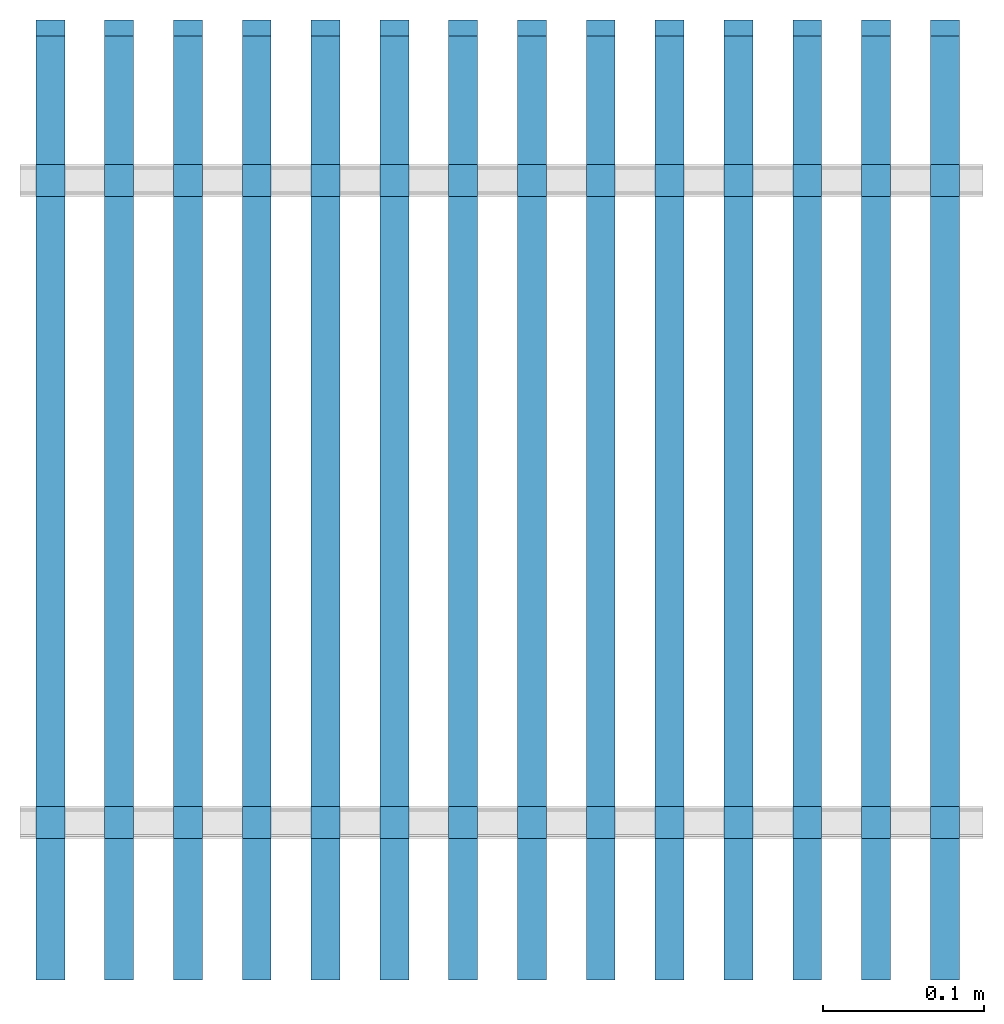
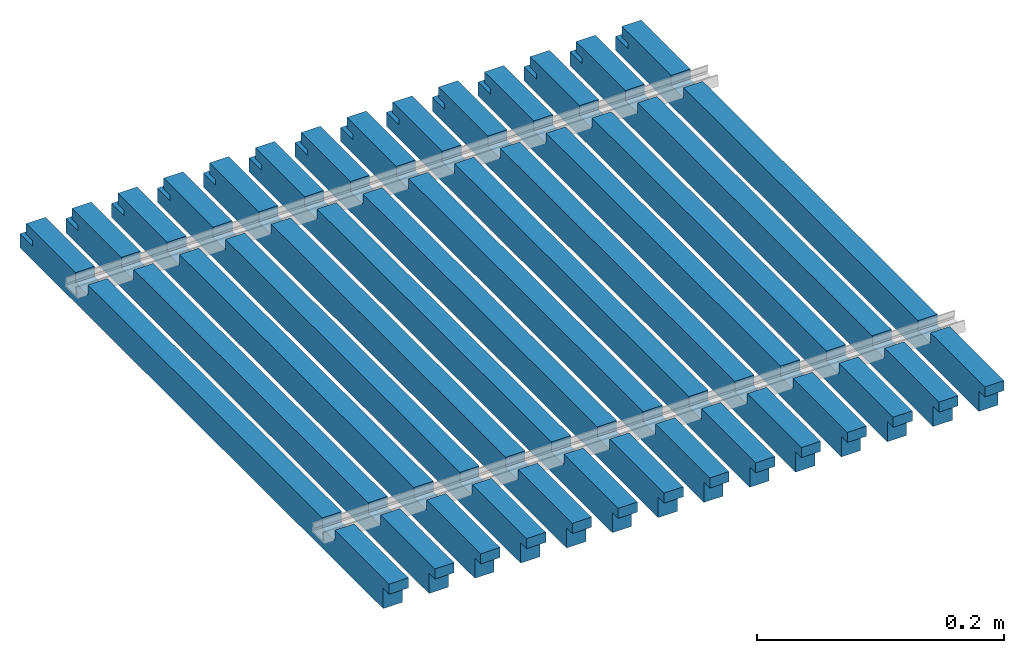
# One storey, part 2 of 2: 14 walls.
"""IFC2X3 building model written with IfcOpenShell, lengths in millimetres."""

from ifc_helpers import new_model, entity, si_unit, converted_unit, money_unit, direction, frame, origin_with_axes, place, context, subcontext, project, spatial, polyline, outline, extrude, boolean, faceted_brep, material, layer, layer_set, layer_usage, type_object, element, save


model = new_model("IFC2X3")

# Units and contexts
model_context = context("Model", 3, precision=1e-05, world=origin_with_axes(), true_north=direction((0.0, 1.0)))
body_context = subcontext(model_context, "Body", "Model", "MODEL_VIEW")
ifc_project = project(units=[si_unit("LENGTHUNIT", "METRE", prefix="MILLI"), si_unit("AREAUNIT", "SQUARE_METRE"), si_unit("VOLUMEUNIT", "CUBIC_METRE"), converted_unit("PLANEANGLEUNIT", "DEGREE", entity("IfcPlaneAngleMeasure", 0.0174532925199), si_unit("PLANEANGLEUNIT", "RADIAN"), dimensions=[0, 0, 0, 0, 0, 0, 0]), si_unit("SOLIDANGLEUNIT", "STERADIAN"), money_unit("AUD"), si_unit("TIMEUNIT", "SECOND"), si_unit("MASSUNIT", "GRAM"), si_unit("THERMODYNAMICTEMPERATUREUNIT", "DEGREE_CELSIUS"), si_unit("LUMINOUSINTENSITYUNIT", "LUMEN")], contexts=[model_context])

# Site, building, storey
site_placement = place(None, origin_with_axes())
site = spatial("IfcSite", under=ifc_project, at=site_placement, Name="Site", CompositionType="ELEMENT")
building_placement = place(site_placement, origin_with_axes())
building = spatial("IfcBuilding", under=site, at=building_placement, Name="Building", CompositionType="ELEMENT")
storey_placement = place(building_placement, origin_with_axes())
storey = spatial("IfcBuildingStorey", under=building, at=storey_placement, Name="GROUND", CompositionType="ELEMENT", Elevation=0.0)

# Walls
ifc_material = material(Name="Timber")
ifc_layer = layer(ifc_material, 18.0, ventilated="UNKNOWN")
ifc_layer_set = layer_set([ifc_layer], Name="Timber 18")
ifc_layer_usage_1 = layer_usage(ifc_layer_set, "AXIS2", "POSITIVE", 0.0)
wall_type = type_object("IfcWallType", Name="Timber 18", PredefinedType="NOTDEFINED")
wall_1_placement = place(storey_placement, frame((587.59, 2.0, 0.0), z_axis=(0.0, 0.0, 1.0), x_axis=(0.0, 1.0, 0.0)))
element("IfcWallStandardCase", 1, at=wall_1_placement, inside=storey, type_object=wall_type, material=ifc_layer_usage_1, Name="WALL-01", context=body_context, shape_type="CSG", body=[
    boolean("DIFFERENCE", boolean("DIFFERENCE", boolean("DIFFERENCE", boolean("DIFFERENCE", extrude(outline(polyline([(0.0, 0.0), (600.0, 0.0), (600.0, 18.0), (0.0, 18.0), (0.0, 0.0)])), origin_with_axes(), (0.0, 0.0, 1.0), 30.0), faceted_brep([(2.0, 0.0, 20.0), (2.0, 0.0, 30.0), (0.0, 0.0, 30.0), (0.0, 0.0, 0.0), (11.5, 0.0, 0.0), (11.5, 0.0, 20.0), (2.0, 18.0, 30.0), (2.0, 18.0, 20.0), (0.0, 18.0, 30.0), (0.0, 18.0, 0.0), (11.5, 18.0, 0.0), (11.5, 18.0, 20.0)], [[[0, 1, 2, 3, 4, 5]], [[6, 1, 0, 7]], [[1, 6, 8, 2]], [[8, 9, 3, 2]], [[10, 4, 3, 9]], [[5, 4, 10, 11]], [[0, 5, 11, 7]], [[11, 10, 9, 8, 6, 7]]])), faceted_brep([(90.0, 0.0, 20.0), (110.0, 0.0, 20.0), (110.0, 0.0, 30.0), (90.0, 0.0, 30.0), (90.0, 18.0, 20.0), (110.0, 18.0, 20.0), (110.0, 18.0, 30.0), (90.0, 18.0, 30.0)], [[[0, 1, 2, 3]], [[1, 0, 4, 5]], [[6, 2, 1, 5]], [[7, 3, 2, 6]], [[0, 3, 7, 4]], [[4, 7, 6, 5]]])), faceted_brep([(490.0, 0.0, 20.0), (510.0, 0.0, 20.0), (510.0, 0.0, 30.0), (490.0, 0.0, 30.0), (490.0, 18.0, 20.0), (510.0, 18.0, 20.0), (510.0, 18.0, 30.0), (490.0, 18.0, 30.0)], [[[0, 1, 2, 3]], [[1, 0, 4, 5]], [[6, 2, 1, 5]], [[7, 3, 2, 6]], [[0, 3, 7, 4]], [[4, 7, 6, 5]]])), faceted_brep([(580.0, 0.0, 19.5), (580.0, 0.0, 14.0), (600.0, 0.0, 14.0), (600.0, 0.0, 30.0), (590.0, 0.0, 30.0), (590.0, 0.0, 19.5), (580.0, 18.0, 19.5), (580.0, 18.0, 14.0), (600.0, 18.0, 14.0), (600.0, 18.0, 30.0), (590.0, 18.0, 30.0), (590.0, 18.0, 19.5)], [[[0, 1, 2, 3, 4, 5]], [[1, 0, 6, 7]], [[8, 2, 1, 7]], [[2, 8, 9, 3]], [[10, 4, 3, 9]], [[5, 4, 10, 11]], [[0, 5, 11, 6]], [[11, 10, 9, 8, 7, 6]]])),
])
ifc_layer_usage_2 = layer_usage(ifc_layer_set, "AXIS2", "POSITIVE", 0.0)
wall_2_placement = place(storey_placement, frame((544.73, 2.0, 0.0), z_axis=(0.0, 0.0, 1.0), x_axis=(0.0, 1.0, 0.0)))
element("IfcWallStandardCase", 2, at=wall_2_placement, inside=storey, type_object=wall_type, material=ifc_layer_usage_2, Name="WALL-01", context=body_context, shape_type="CSG", body=[
    boolean("DIFFERENCE", boolean("DIFFERENCE", boolean("DIFFERENCE", boolean("DIFFERENCE", extrude(outline(polyline([(0.0, 0.0), (600.0, 0.0), (600.0, 18.0), (0.0, 18.0), (0.0, 0.0)])), origin_with_axes(), (0.0, 0.0, 1.0), 30.0), faceted_brep([(2.0, 0.0, 20.0), (2.0, 0.0, 30.0), (0.0, 0.0, 30.0), (0.0, 0.0, 0.0), (11.5, 0.0, 0.0), (11.5, 0.0, 20.0), (2.0, 18.0, 30.0), (2.0, 18.0, 20.0), (0.0, 18.0, 30.0), (0.0, 18.0, 0.0), (11.5, 18.0, 0.0), (11.5, 18.0, 20.0)], [[[0, 1, 2, 3, 4, 5]], [[6, 1, 0, 7]], [[1, 6, 8, 2]], [[8, 9, 3, 2]], [[10, 4, 3, 9]], [[5, 4, 10, 11]], [[0, 5, 11, 7]], [[11, 10, 9, 8, 6, 7]]])), faceted_brep([(90.0, 0.0, 20.0), (110.0, 0.0, 20.0), (110.0, 0.0, 30.0), (90.0, 0.0, 30.0), (90.0, 18.0, 20.0), (110.0, 18.0, 20.0), (110.0, 18.0, 30.0), (90.0, 18.0, 30.0)], [[[0, 1, 2, 3]], [[1, 0, 4, 5]], [[6, 2, 1, 5]], [[7, 3, 2, 6]], [[0, 3, 7, 4]], [[4, 7, 6, 5]]])), faceted_brep([(490.0, 0.0, 20.0), (510.0, 0.0, 20.0), (510.0, 0.0, 30.0), (490.0, 0.0, 30.0), (490.0, 18.0, 20.0), (510.0, 18.0, 20.0), (510.0, 18.0, 30.0), (490.0, 18.0, 30.0)], [[[0, 1, 2, 3]], [[1, 0, 4, 5]], [[6, 2, 1, 5]], [[7, 3, 2, 6]], [[0, 3, 7, 4]], [[4, 7, 6, 5]]])), faceted_brep([(580.0, 0.0, 19.5), (580.0, 0.0, 14.0), (600.0, 0.0, 14.0), (600.0, 0.0, 30.0), (590.0, 0.0, 30.0), (590.0, 0.0, 19.5), (580.0, 18.0, 19.5), (580.0, 18.0, 14.0), (600.0, 18.0, 14.0), (600.0, 18.0, 30.0), (590.0, 18.0, 30.0), (590.0, 18.0, 19.5)], [[[0, 1, 2, 3, 4, 5]], [[1, 0, 6, 7]], [[8, 2, 1, 7]], [[2, 8, 9, 3]], [[10, 4, 3, 9]], [[5, 4, 10, 11]], [[0, 5, 11, 6]], [[11, 10, 9, 8, 7, 6]]])),
])
ifc_layer_usage_3 = layer_usage(ifc_layer_set, "AXIS2", "POSITIVE", 0.0)
wall_3_placement = place(storey_placement, frame((501.87, 2.0, 0.0), z_axis=(0.0, 0.0, 1.0), x_axis=(0.0, 1.0, 0.0)))
element("IfcWallStandardCase", 3, at=wall_3_placement, inside=storey, type_object=wall_type, material=ifc_layer_usage_3, Name="WALL-01", context=body_context, shape_type="CSG", body=[
    boolean("DIFFERENCE", boolean("DIFFERENCE", boolean("DIFFERENCE", boolean("DIFFERENCE", extrude(outline(polyline([(0.0, 0.0), (600.0, 0.0), (600.0, 18.0), (0.0, 18.0), (0.0, 0.0)])), origin_with_axes(), (0.0, 0.0, 1.0), 30.0), faceted_brep([(2.0, 0.0, 20.0), (2.0, 0.0, 30.0), (0.0, 0.0, 30.0), (0.0, 0.0, 0.0), (11.5, 0.0, 0.0), (11.5, 0.0, 20.0), (2.0, 18.0, 30.0), (2.0, 18.0, 20.0), (0.0, 18.0, 30.0), (0.0, 18.0, 0.0), (11.5, 18.0, 0.0), (11.5, 18.0, 20.0)], [[[0, 1, 2, 3, 4, 5]], [[6, 1, 0, 7]], [[1, 6, 8, 2]], [[8, 9, 3, 2]], [[10, 4, 3, 9]], [[5, 4, 10, 11]], [[0, 5, 11, 7]], [[11, 10, 9, 8, 6, 7]]])), faceted_brep([(90.0, 0.0, 20.0), (110.0, 0.0, 20.0), (110.0, 0.0, 30.0), (90.0, 0.0, 30.0), (90.0, 18.0, 20.0), (110.0, 18.0, 20.0), (110.0, 18.0, 30.0), (90.0, 18.0, 30.0)], [[[0, 1, 2, 3]], [[1, 0, 4, 5]], [[6, 2, 1, 5]], [[7, 3, 2, 6]], [[0, 3, 7, 4]], [[4, 7, 6, 5]]])), faceted_brep([(490.0, 0.0, 20.0), (510.0, 0.0, 20.0), (510.0, 0.0, 30.0), (490.0, 0.0, 30.0), (490.0, 18.0, 20.0), (510.0, 18.0, 20.0), (510.0, 18.0, 30.0), (490.0, 18.0, 30.0)], [[[0, 1, 2, 3]], [[1, 0, 4, 5]], [[6, 2, 1, 5]], [[7, 3, 2, 6]], [[0, 3, 7, 4]], [[4, 7, 6, 5]]])), faceted_brep([(580.0, 0.0, 19.5), (580.0, 0.0, 14.0), (600.0, 0.0, 14.0), (600.0, 0.0, 30.0), (590.0, 0.0, 30.0), (590.0, 0.0, 19.5), (580.0, 18.0, 19.5), (580.0, 18.0, 14.0), (600.0, 18.0, 14.0), (600.0, 18.0, 30.0), (590.0, 18.0, 30.0), (590.0, 18.0, 19.5)], [[[0, 1, 2, 3, 4, 5]], [[1, 0, 6, 7]], [[8, 2, 1, 7]], [[2, 8, 9, 3]], [[10, 4, 3, 9]], [[5, 4, 10, 11]], [[0, 5, 11, 6]], [[11, 10, 9, 8, 7, 6]]])),
])
ifc_layer_usage_4 = layer_usage(ifc_layer_set, "AXIS2", "POSITIVE", 0.0)
wall_4_placement = place(storey_placement, frame((459.01, 2.0, 0.0), z_axis=(0.0, 0.0, 1.0), x_axis=(0.0, 1.0, 0.0)))
element("IfcWallStandardCase", 4, at=wall_4_placement, inside=storey, type_object=wall_type, material=ifc_layer_usage_4, Name="WALL-01", context=body_context, shape_type="CSG", body=[
    boolean("DIFFERENCE", boolean("DIFFERENCE", boolean("DIFFERENCE", boolean("DIFFERENCE", extrude(outline(polyline([(0.0, 0.0), (600.0, 0.0), (600.0, 18.0), (0.0, 18.0), (0.0, 0.0)])), origin_with_axes(), (0.0, 0.0, 1.0), 30.0), faceted_brep([(2.0, 0.0, 20.0), (2.0, 0.0, 30.0), (0.0, 0.0, 30.0), (0.0, 0.0, 0.0), (11.5, 0.0, 0.0), (11.5, 0.0, 20.0), (2.0, 18.0, 30.0), (2.0, 18.0, 20.0), (0.0, 18.0, 30.0), (0.0, 18.0, 0.0), (11.5, 18.0, 0.0), (11.5, 18.0, 20.0)], [[[0, 1, 2, 3, 4, 5]], [[6, 1, 0, 7]], [[1, 6, 8, 2]], [[8, 9, 3, 2]], [[10, 4, 3, 9]], [[5, 4, 10, 11]], [[0, 5, 11, 7]], [[11, 10, 9, 8, 6, 7]]])), faceted_brep([(90.0, 0.0, 20.0), (110.0, 0.0, 20.0), (110.0, 0.0, 30.0), (90.0, 0.0, 30.0), (90.0, 18.0, 20.0), (110.0, 18.0, 20.0), (110.0, 18.0, 30.0), (90.0, 18.0, 30.0)], [[[0, 1, 2, 3]], [[1, 0, 4, 5]], [[6, 2, 1, 5]], [[7, 3, 2, 6]], [[0, 3, 7, 4]], [[4, 7, 6, 5]]])), faceted_brep([(490.0, 0.0, 20.0), (510.0, 0.0, 20.0), (510.0, 0.0, 30.0), (490.0, 0.0, 30.0), (490.0, 18.0, 20.0), (510.0, 18.0, 20.0), (510.0, 18.0, 30.0), (490.0, 18.0, 30.0)], [[[0, 1, 2, 3]], [[1, 0, 4, 5]], [[6, 2, 1, 5]], [[7, 3, 2, 6]], [[0, 3, 7, 4]], [[4, 7, 6, 5]]])), faceted_brep([(580.0, 0.0, 19.5), (580.0, 0.0, 14.0), (600.0, 0.0, 14.0), (600.0, 0.0, 30.0), (590.0, 0.0, 30.0), (590.0, 0.0, 19.5), (580.0, 18.0, 19.5), (580.0, 18.0, 14.0), (600.0, 18.0, 14.0), (600.0, 18.0, 30.0), (590.0, 18.0, 30.0), (590.0, 18.0, 19.5)], [[[0, 1, 2, 3, 4, 5]], [[1, 0, 6, 7]], [[8, 2, 1, 7]], [[2, 8, 9, 3]], [[10, 4, 3, 9]], [[5, 4, 10, 11]], [[0, 5, 11, 6]], [[11, 10, 9, 8, 7, 6]]])),
])
ifc_layer_usage_5 = layer_usage(ifc_layer_set, "AXIS2", "POSITIVE", 0.0)
wall_5_placement = place(storey_placement, frame((416.15, 2.0, 0.0), z_axis=(0.0, 0.0, 1.0), x_axis=(0.0, 1.0, 0.0)))
element("IfcWallStandardCase", 5, at=wall_5_placement, inside=storey, type_object=wall_type, material=ifc_layer_usage_5, Name="WALL-01", context=body_context, shape_type="CSG", body=[
    boolean("DIFFERENCE", boolean("DIFFERENCE", boolean("DIFFERENCE", boolean("DIFFERENCE", extrude(outline(polyline([(0.0, 0.0), (600.0, 0.0), (600.0, 18.0), (0.0, 18.0), (0.0, 0.0)])), origin_with_axes(), (0.0, 0.0, 1.0), 30.0), faceted_brep([(2.0, 0.0, 20.0), (2.0, 0.0, 30.0), (0.0, 0.0, 30.0), (0.0, 0.0, 0.0), (11.5, 0.0, 0.0), (11.5, 0.0, 20.0), (2.0, 18.0, 30.0), (2.0, 18.0, 20.0), (0.0, 18.0, 30.0), (0.0, 18.0, 0.0), (11.5, 18.0, 0.0), (11.5, 18.0, 20.0)], [[[0, 1, 2, 3, 4, 5]], [[6, 1, 0, 7]], [[1, 6, 8, 2]], [[8, 9, 3, 2]], [[10, 4, 3, 9]], [[5, 4, 10, 11]], [[0, 5, 11, 7]], [[11, 10, 9, 8, 6, 7]]])), faceted_brep([(90.0, 0.0, 20.0), (110.0, 0.0, 20.0), (110.0, 0.0, 30.0), (90.0, 0.0, 30.0), (90.0, 18.0, 20.0), (110.0, 18.0, 20.0), (110.0, 18.0, 30.0), (90.0, 18.0, 30.0)], [[[0, 1, 2, 3]], [[1, 0, 4, 5]], [[6, 2, 1, 5]], [[7, 3, 2, 6]], [[0, 3, 7, 4]], [[4, 7, 6, 5]]])), faceted_brep([(490.0, 0.0, 20.0), (510.0, 0.0, 20.0), (510.0, 0.0, 30.0), (490.0, 0.0, 30.0), (490.0, 18.0, 20.0), (510.0, 18.0, 20.0), (510.0, 18.0, 30.0), (490.0, 18.0, 30.0)], [[[0, 1, 2, 3]], [[1, 0, 4, 5]], [[6, 2, 1, 5]], [[7, 3, 2, 6]], [[0, 3, 7, 4]], [[4, 7, 6, 5]]])), faceted_brep([(580.0, 0.0, 19.5), (580.0, 0.0, 14.0), (600.0, 0.0, 14.0), (600.0, 0.0, 30.0), (590.0, 0.0, 30.0), (590.0, 0.0, 19.5), (580.0, 18.0, 19.5), (580.0, 18.0, 14.0), (600.0, 18.0, 14.0), (600.0, 18.0, 30.0), (590.0, 18.0, 30.0), (590.0, 18.0, 19.5)], [[[0, 1, 2, 3, 4, 5]], [[1, 0, 6, 7]], [[8, 2, 1, 7]], [[2, 8, 9, 3]], [[10, 4, 3, 9]], [[5, 4, 10, 11]], [[0, 5, 11, 6]], [[11, 10, 9, 8, 7, 6]]])),
])
ifc_layer_usage_6 = layer_usage(ifc_layer_set, "AXIS2", "POSITIVE", 0.0)
wall_6_placement = place(storey_placement, frame((373.29, 2.0, 0.0), z_axis=(0.0, 0.0, 1.0), x_axis=(0.0, 1.0, 0.0)))
element("IfcWallStandardCase", 6, at=wall_6_placement, inside=storey, type_object=wall_type, material=ifc_layer_usage_6, Name="WALL-01", context=body_context, shape_type="CSG", body=[
    boolean("DIFFERENCE", boolean("DIFFERENCE", boolean("DIFFERENCE", boolean("DIFFERENCE", extrude(outline(polyline([(0.0, 0.0), (600.0, 0.0), (600.0, 18.0), (0.0, 18.0), (0.0, 0.0)])), origin_with_axes(), (0.0, 0.0, 1.0), 30.0), faceted_brep([(2.0, 0.0, 20.0), (2.0, 0.0, 30.0), (0.0, 0.0, 30.0), (0.0, 0.0, 0.0), (11.5, 0.0, 0.0), (11.5, 0.0, 20.0), (2.0, 18.0, 30.0), (2.0, 18.0, 20.0), (0.0, 18.0, 30.0), (0.0, 18.0, 0.0), (11.5, 18.0, 0.0), (11.5, 18.0, 20.0)], [[[0, 1, 2, 3, 4, 5]], [[6, 1, 0, 7]], [[1, 6, 8, 2]], [[8, 9, 3, 2]], [[10, 4, 3, 9]], [[5, 4, 10, 11]], [[0, 5, 11, 7]], [[11, 10, 9, 8, 6, 7]]])), faceted_brep([(90.0, 0.0, 20.0), (110.0, 0.0, 20.0), (110.0, 0.0, 30.0), (90.0, 0.0, 30.0), (90.0, 18.0, 20.0), (110.0, 18.0, 20.0), (110.0, 18.0, 30.0), (90.0, 18.0, 30.0)], [[[0, 1, 2, 3]], [[1, 0, 4, 5]], [[6, 2, 1, 5]], [[7, 3, 2, 6]], [[0, 3, 7, 4]], [[4, 7, 6, 5]]])), faceted_brep([(490.0, 0.0, 20.0), (510.0, 0.0, 20.0), (510.0, 0.0, 30.0), (490.0, 0.0, 30.0), (490.0, 18.0, 20.0), (510.0, 18.0, 20.0), (510.0, 18.0, 30.0), (490.0, 18.0, 30.0)], [[[0, 1, 2, 3]], [[1, 0, 4, 5]], [[6, 2, 1, 5]], [[7, 3, 2, 6]], [[0, 3, 7, 4]], [[4, 7, 6, 5]]])), faceted_brep([(580.0, 0.0, 19.5), (580.0, 0.0, 14.0), (600.0, 0.0, 14.0), (600.0, 0.0, 30.0), (590.0, 0.0, 30.0), (590.0, 0.0, 19.5), (580.0, 18.0, 19.5), (580.0, 18.0, 14.0), (600.0, 18.0, 14.0), (600.0, 18.0, 30.0), (590.0, 18.0, 30.0), (590.0, 18.0, 19.5)], [[[0, 1, 2, 3, 4, 5]], [[1, 0, 6, 7]], [[8, 2, 1, 7]], [[2, 8, 9, 3]], [[10, 4, 3, 9]], [[5, 4, 10, 11]], [[0, 5, 11, 6]], [[11, 10, 9, 8, 7, 6]]])),
])
ifc_layer_usage_7 = layer_usage(ifc_layer_set, "AXIS2", "POSITIVE", 0.0)
wall_7_placement = place(storey_placement, frame((330.43, 2.0, 0.0), z_axis=(0.0, 0.0, 1.0), x_axis=(0.0, 1.0, 0.0)))
element("IfcWallStandardCase", 7, at=wall_7_placement, inside=storey, type_object=wall_type, material=ifc_layer_usage_7, Name="WALL-01", context=body_context, shape_type="CSG", body=[
    boolean("DIFFERENCE", boolean("DIFFERENCE", boolean("DIFFERENCE", boolean("DIFFERENCE", extrude(outline(polyline([(0.0, 0.0), (600.0, 0.0), (600.0, 18.0), (0.0, 18.0), (0.0, 0.0)])), origin_with_axes(), (0.0, 0.0, 1.0), 30.0), faceted_brep([(2.0, 0.0, 20.0), (2.0, 0.0, 30.0), (0.0, 0.0, 30.0), (0.0, 0.0, 0.0), (11.5, 0.0, 0.0), (11.5, 0.0, 20.0), (2.0, 18.0, 30.0), (2.0, 18.0, 20.0), (0.0, 18.0, 30.0), (0.0, 18.0, 0.0), (11.5, 18.0, 0.0), (11.5, 18.0, 20.0)], [[[0, 1, 2, 3, 4, 5]], [[6, 1, 0, 7]], [[1, 6, 8, 2]], [[8, 9, 3, 2]], [[10, 4, 3, 9]], [[5, 4, 10, 11]], [[0, 5, 11, 7]], [[11, 10, 9, 8, 6, 7]]])), faceted_brep([(90.0, 0.0, 20.0), (110.0, 0.0, 20.0), (110.0, 0.0, 30.0), (90.0, 0.0, 30.0), (90.0, 18.0, 20.0), (110.0, 18.0, 20.0), (110.0, 18.0, 30.0), (90.0, 18.0, 30.0)], [[[0, 1, 2, 3]], [[1, 0, 4, 5]], [[6, 2, 1, 5]], [[7, 3, 2, 6]], [[0, 3, 7, 4]], [[4, 7, 6, 5]]])), faceted_brep([(490.0, 0.0, 20.0), (510.0, 0.0, 20.0), (510.0, 0.0, 30.0), (490.0, 0.0, 30.0), (490.0, 18.0, 20.0), (510.0, 18.0, 20.0), (510.0, 18.0, 30.0), (490.0, 18.0, 30.0)], [[[0, 1, 2, 3]], [[1, 0, 4, 5]], [[6, 2, 1, 5]], [[7, 3, 2, 6]], [[0, 3, 7, 4]], [[4, 7, 6, 5]]])), faceted_brep([(580.0, 0.0, 19.5), (580.0, 0.0, 14.0), (600.0, 0.0, 14.0), (600.0, 0.0, 30.0), (590.0, 0.0, 30.0), (590.0, 0.0, 19.5), (580.0, 18.0, 19.5), (580.0, 18.0, 14.0), (600.0, 18.0, 14.0), (600.0, 18.0, 30.0), (590.0, 18.0, 30.0), (590.0, 18.0, 19.5)], [[[0, 1, 2, 3, 4, 5]], [[1, 0, 6, 7]], [[8, 2, 1, 7]], [[2, 8, 9, 3]], [[10, 4, 3, 9]], [[5, 4, 10, 11]], [[0, 5, 11, 6]], [[11, 10, 9, 8, 7, 6]]])),
])
ifc_layer_usage_8 = layer_usage(ifc_layer_set, "AXIS2", "POSITIVE", 0.0)
wall_8_placement = place(storey_placement, frame((287.57, 2.0, 0.0), z_axis=(0.0, 0.0, 1.0), x_axis=(0.0, 1.0, 0.0)))
element("IfcWallStandardCase", 8, at=wall_8_placement, inside=storey, type_object=wall_type, material=ifc_layer_usage_8, Name="WALL-01", context=body_context, shape_type="CSG", body=[
    boolean("DIFFERENCE", boolean("DIFFERENCE", boolean("DIFFERENCE", boolean("DIFFERENCE", extrude(outline(polyline([(0.0, 0.0), (600.0, 0.0), (600.0, 18.0), (0.0, 18.0), (0.0, 0.0)])), origin_with_axes(), (0.0, 0.0, 1.0), 30.0), faceted_brep([(2.0, 0.0, 20.0), (2.0, 0.0, 30.0), (0.0, 0.0, 30.0), (0.0, 0.0, 0.0), (11.5, 0.0, 0.0), (11.5, 0.0, 20.0), (2.0, 18.0, 30.0), (2.0, 18.0, 20.0), (0.0, 18.0, 30.0), (0.0, 18.0, 0.0), (11.5, 18.0, 0.0), (11.5, 18.0, 20.0)], [[[0, 1, 2, 3, 4, 5]], [[6, 1, 0, 7]], [[1, 6, 8, 2]], [[8, 9, 3, 2]], [[10, 4, 3, 9]], [[5, 4, 10, 11]], [[0, 5, 11, 7]], [[11, 10, 9, 8, 6, 7]]])), faceted_brep([(90.0, 0.0, 20.0), (110.0, 0.0, 20.0), (110.0, 0.0, 30.0), (90.0, 0.0, 30.0), (90.0, 18.0, 20.0), (110.0, 18.0, 20.0), (110.0, 18.0, 30.0), (90.0, 18.0, 30.0)], [[[0, 1, 2, 3]], [[1, 0, 4, 5]], [[6, 2, 1, 5]], [[7, 3, 2, 6]], [[0, 3, 7, 4]], [[4, 7, 6, 5]]])), faceted_brep([(490.0, 0.0, 20.0), (510.0, 0.0, 20.0), (510.0, 0.0, 30.0), (490.0, 0.0, 30.0), (490.0, 18.0, 20.0), (510.0, 18.0, 20.0), (510.0, 18.0, 30.0), (490.0, 18.0, 30.0)], [[[0, 1, 2, 3]], [[1, 0, 4, 5]], [[6, 2, 1, 5]], [[7, 3, 2, 6]], [[0, 3, 7, 4]], [[4, 7, 6, 5]]])), faceted_brep([(580.0, 0.0, 19.5), (580.0, 0.0, 14.0), (600.0, 0.0, 14.0), (600.0, 0.0, 30.0), (590.0, 0.0, 30.0), (590.0, 0.0, 19.5), (580.0, 18.0, 19.5), (580.0, 18.0, 14.0), (600.0, 18.0, 14.0), (600.0, 18.0, 30.0), (590.0, 18.0, 30.0), (590.0, 18.0, 19.5)], [[[0, 1, 2, 3, 4, 5]], [[1, 0, 6, 7]], [[8, 2, 1, 7]], [[2, 8, 9, 3]], [[10, 4, 3, 9]], [[5, 4, 10, 11]], [[0, 5, 11, 6]], [[11, 10, 9, 8, 7, 6]]])),
])
ifc_layer_usage_9 = layer_usage(ifc_layer_set, "AXIS2", "POSITIVE", 0.0)
wall_9_placement = place(storey_placement, frame((244.71, 2.0, 0.0), z_axis=(0.0, 0.0, 1.0), x_axis=(0.0, 1.0, 0.0)))
element("IfcWallStandardCase", 9, at=wall_9_placement, inside=storey, type_object=wall_type, material=ifc_layer_usage_9, Name="WALL-01", context=body_context, shape_type="CSG", body=[
    boolean("DIFFERENCE", boolean("DIFFERENCE", boolean("DIFFERENCE", boolean("DIFFERENCE", extrude(outline(polyline([(0.0, 0.0), (600.0, 0.0), (600.0, 18.0), (0.0, 18.0), (0.0, 0.0)])), origin_with_axes(), (0.0, 0.0, 1.0), 30.0), faceted_brep([(2.0, 0.0, 20.0), (2.0, 0.0, 30.0), (0.0, 0.0, 30.0), (0.0, 0.0, 0.0), (11.5, 0.0, 0.0), (11.5, 0.0, 20.0), (2.0, 18.0, 30.0), (2.0, 18.0, 20.0), (0.0, 18.0, 30.0), (0.0, 18.0, 0.0), (11.5, 18.0, 0.0), (11.5, 18.0, 20.0)], [[[0, 1, 2, 3, 4, 5]], [[6, 1, 0, 7]], [[1, 6, 8, 2]], [[8, 9, 3, 2]], [[10, 4, 3, 9]], [[5, 4, 10, 11]], [[0, 5, 11, 7]], [[11, 10, 9, 8, 6, 7]]])), faceted_brep([(90.0, 0.0, 20.0), (110.0, 0.0, 20.0), (110.0, 0.0, 30.0), (90.0, 0.0, 30.0), (90.0, 18.0, 20.0), (110.0, 18.0, 20.0), (110.0, 18.0, 30.0), (90.0, 18.0, 30.0)], [[[0, 1, 2, 3]], [[1, 0, 4, 5]], [[6, 2, 1, 5]], [[7, 3, 2, 6]], [[0, 3, 7, 4]], [[4, 7, 6, 5]]])), faceted_brep([(490.0, 0.0, 20.0), (510.0, 0.0, 20.0), (510.0, 0.0, 30.0), (490.0, 0.0, 30.0), (490.0, 18.0, 20.0), (510.0, 18.0, 20.0), (510.0, 18.0, 30.0), (490.0, 18.0, 30.0)], [[[0, 1, 2, 3]], [[1, 0, 4, 5]], [[6, 2, 1, 5]], [[7, 3, 2, 6]], [[0, 3, 7, 4]], [[4, 7, 6, 5]]])), faceted_brep([(580.0, 0.0, 19.5), (580.0, 0.0, 14.0), (600.0, 0.0, 14.0), (600.0, 0.0, 30.0), (590.0, 0.0, 30.0), (590.0, 0.0, 19.5), (580.0, 18.0, 19.5), (580.0, 18.0, 14.0), (600.0, 18.0, 14.0), (600.0, 18.0, 30.0), (590.0, 18.0, 30.0), (590.0, 18.0, 19.5)], [[[0, 1, 2, 3, 4, 5]], [[1, 0, 6, 7]], [[8, 2, 1, 7]], [[2, 8, 9, 3]], [[10, 4, 3, 9]], [[5, 4, 10, 11]], [[0, 5, 11, 6]], [[11, 10, 9, 8, 7, 6]]])),
])
ifc_layer_usage_10 = layer_usage(ifc_layer_set, "AXIS2", "POSITIVE", 0.0)
wall_10_placement = place(storey_placement, frame((201.85, 2.0, 0.0), z_axis=(0.0, 0.0, 1.0), x_axis=(0.0, 1.0, 0.0)))
element("IfcWallStandardCase", 10, at=wall_10_placement, inside=storey, type_object=wall_type, material=ifc_layer_usage_10, Name="WALL-01", context=body_context, shape_type="CSG", body=[
    boolean("DIFFERENCE", boolean("DIFFERENCE", boolean("DIFFERENCE", boolean("DIFFERENCE", extrude(outline(polyline([(0.0, 0.0), (600.0, 0.0), (600.0, 18.0), (0.0, 18.0), (0.0, 0.0)])), origin_with_axes(), (0.0, 0.0, 1.0), 30.0), faceted_brep([(2.0, 0.0, 20.0), (2.0, 0.0, 30.0), (0.0, 0.0, 30.0), (0.0, 0.0, 0.0), (11.5, 0.0, 0.0), (11.5, 0.0, 20.0), (2.0, 18.0, 30.0), (2.0, 18.0, 20.0), (0.0, 18.0, 30.0), (0.0, 18.0, 0.0), (11.5, 18.0, 0.0), (11.5, 18.0, 20.0)], [[[0, 1, 2, 3, 4, 5]], [[6, 1, 0, 7]], [[1, 6, 8, 2]], [[8, 9, 3, 2]], [[10, 4, 3, 9]], [[5, 4, 10, 11]], [[0, 5, 11, 7]], [[11, 10, 9, 8, 6, 7]]])), faceted_brep([(90.0, 0.0, 20.0), (110.0, 0.0, 20.0), (110.0, 0.0, 30.0), (90.0, 0.0, 30.0), (90.0, 18.0, 20.0), (110.0, 18.0, 20.0), (110.0, 18.0, 30.0), (90.0, 18.0, 30.0)], [[[0, 1, 2, 3]], [[1, 0, 4, 5]], [[6, 2, 1, 5]], [[7, 3, 2, 6]], [[0, 3, 7, 4]], [[4, 7, 6, 5]]])), faceted_brep([(490.0, 0.0, 20.0), (510.0, 0.0, 20.0), (510.0, 0.0, 30.0), (490.0, 0.0, 30.0), (490.0, 18.0, 20.0), (510.0, 18.0, 20.0), (510.0, 18.0, 30.0), (490.0, 18.0, 30.0)], [[[0, 1, 2, 3]], [[1, 0, 4, 5]], [[6, 2, 1, 5]], [[7, 3, 2, 6]], [[0, 3, 7, 4]], [[4, 7, 6, 5]]])), faceted_brep([(580.0, 0.0, 19.5), (580.0, 0.0, 14.0), (600.0, 0.0, 14.0), (600.0, 0.0, 30.0), (590.0, 0.0, 30.0), (590.0, 0.0, 19.5), (580.0, 18.0, 19.5), (580.0, 18.0, 14.0), (600.0, 18.0, 14.0), (600.0, 18.0, 30.0), (590.0, 18.0, 30.0), (590.0, 18.0, 19.5)], [[[0, 1, 2, 3, 4, 5]], [[1, 0, 6, 7]], [[8, 2, 1, 7]], [[2, 8, 9, 3]], [[10, 4, 3, 9]], [[5, 4, 10, 11]], [[0, 5, 11, 6]], [[11, 10, 9, 8, 7, 6]]])),
])
ifc_layer_usage_11 = layer_usage(ifc_layer_set, "AXIS2", "POSITIVE", 0.0)
wall_11_placement = place(storey_placement, frame((158.99, 2.0, 0.0), z_axis=(0.0, 0.0, 1.0), x_axis=(0.0, 1.0, 0.0)))
element("IfcWallStandardCase", 11, at=wall_11_placement, inside=storey, type_object=wall_type, material=ifc_layer_usage_11, Name="WALL-01", context=body_context, shape_type="CSG", body=[
    boolean("DIFFERENCE", boolean("DIFFERENCE", boolean("DIFFERENCE", boolean("DIFFERENCE", extrude(outline(polyline([(0.0, 0.0), (600.0, 0.0), (600.0, 18.0), (0.0, 18.0), (0.0, 0.0)])), origin_with_axes(), (0.0, 0.0, 1.0), 30.0), faceted_brep([(2.0, 0.0, 20.0), (2.0, 0.0, 30.0), (0.0, 0.0, 30.0), (0.0, 0.0, 0.0), (11.5, 0.0, 0.0), (11.5, 0.0, 20.0), (2.0, 18.0, 30.0), (2.0, 18.0, 20.0), (0.0, 18.0, 30.0), (0.0, 18.0, 0.0), (11.5, 18.0, 0.0), (11.5, 18.0, 20.0)], [[[0, 1, 2, 3, 4, 5]], [[6, 1, 0, 7]], [[1, 6, 8, 2]], [[8, 9, 3, 2]], [[10, 4, 3, 9]], [[5, 4, 10, 11]], [[0, 5, 11, 7]], [[11, 10, 9, 8, 6, 7]]])), faceted_brep([(90.0, 0.0, 20.0), (110.0, 0.0, 20.0), (110.0, 0.0, 30.0), (90.0, 0.0, 30.0), (90.0, 18.0, 20.0), (110.0, 18.0, 20.0), (110.0, 18.0, 30.0), (90.0, 18.0, 30.0)], [[[0, 1, 2, 3]], [[1, 0, 4, 5]], [[6, 2, 1, 5]], [[7, 3, 2, 6]], [[0, 3, 7, 4]], [[4, 7, 6, 5]]])), faceted_brep([(490.0, 0.0, 20.0), (510.0, 0.0, 20.0), (510.0, 0.0, 30.0), (490.0, 0.0, 30.0), (490.0, 18.0, 20.0), (510.0, 18.0, 20.0), (510.0, 18.0, 30.0), (490.0, 18.0, 30.0)], [[[0, 1, 2, 3]], [[1, 0, 4, 5]], [[6, 2, 1, 5]], [[7, 3, 2, 6]], [[0, 3, 7, 4]], [[4, 7, 6, 5]]])), faceted_brep([(580.0, 0.0, 19.5), (580.0, 0.0, 14.0), (600.0, 0.0, 14.0), (600.0, 0.0, 30.0), (590.0, 0.0, 30.0), (590.0, 0.0, 19.5), (580.0, 18.0, 19.5), (580.0, 18.0, 14.0), (600.0, 18.0, 14.0), (600.0, 18.0, 30.0), (590.0, 18.0, 30.0), (590.0, 18.0, 19.5)], [[[0, 1, 2, 3, 4, 5]], [[1, 0, 6, 7]], [[8, 2, 1, 7]], [[2, 8, 9, 3]], [[10, 4, 3, 9]], [[5, 4, 10, 11]], [[0, 5, 11, 6]], [[11, 10, 9, 8, 7, 6]]])),
])
ifc_layer_usage_12 = layer_usage(ifc_layer_set, "AXIS2", "POSITIVE", 0.0)
wall_12_placement = place(storey_placement, frame((116.13, 2.0, 0.0), z_axis=(0.0, 0.0, 1.0), x_axis=(0.0, 1.0, 0.0)))
element("IfcWallStandardCase", 12, at=wall_12_placement, inside=storey, type_object=wall_type, material=ifc_layer_usage_12, Name="WALL-01", context=body_context, shape_type="CSG", body=[
    boolean("DIFFERENCE", boolean("DIFFERENCE", boolean("DIFFERENCE", boolean("DIFFERENCE", extrude(outline(polyline([(0.0, 0.0), (600.0, 0.0), (600.0, 18.0), (0.0, 18.0), (0.0, 0.0)])), origin_with_axes(), (0.0, 0.0, 1.0), 30.0), faceted_brep([(2.0, 0.0, 20.0), (2.0, 0.0, 30.0), (0.0, 0.0, 30.0), (0.0, 0.0, 0.0), (11.5, 0.0, 0.0), (11.5, 0.0, 20.0), (2.0, 18.0, 30.0), (2.0, 18.0, 20.0), (0.0, 18.0, 30.0), (0.0, 18.0, 0.0), (11.5, 18.0, 0.0), (11.5, 18.0, 20.0)], [[[0, 1, 2, 3, 4, 5]], [[6, 1, 0, 7]], [[1, 6, 8, 2]], [[8, 9, 3, 2]], [[10, 4, 3, 9]], [[5, 4, 10, 11]], [[0, 5, 11, 7]], [[11, 10, 9, 8, 6, 7]]])), faceted_brep([(90.0, 0.0, 20.0), (110.0, 0.0, 20.0), (110.0, 0.0, 30.0), (90.0, 0.0, 30.0), (90.0, 18.0, 20.0), (110.0, 18.0, 20.0), (110.0, 18.0, 30.0), (90.0, 18.0, 30.0)], [[[0, 1, 2, 3]], [[1, 0, 4, 5]], [[6, 2, 1, 5]], [[7, 3, 2, 6]], [[0, 3, 7, 4]], [[4, 7, 6, 5]]])), faceted_brep([(490.0, 0.0, 20.0), (510.0, 0.0, 20.0), (510.0, 0.0, 30.0), (490.0, 0.0, 30.0), (490.0, 18.0, 20.0), (510.0, 18.0, 20.0), (510.0, 18.0, 30.0), (490.0, 18.0, 30.0)], [[[0, 1, 2, 3]], [[1, 0, 4, 5]], [[6, 2, 1, 5]], [[7, 3, 2, 6]], [[0, 3, 7, 4]], [[4, 7, 6, 5]]])), faceted_brep([(580.0, 0.0, 19.5), (580.0, 0.0, 14.0), (600.0, 0.0, 14.0), (600.0, 0.0, 30.0), (590.0, 0.0, 30.0), (590.0, 0.0, 19.5), (580.0, 18.0, 19.5), (580.0, 18.0, 14.0), (600.0, 18.0, 14.0), (600.0, 18.0, 30.0), (590.0, 18.0, 30.0), (590.0, 18.0, 19.5)], [[[0, 1, 2, 3, 4, 5]], [[1, 0, 6, 7]], [[8, 2, 1, 7]], [[2, 8, 9, 3]], [[10, 4, 3, 9]], [[5, 4, 10, 11]], [[0, 5, 11, 6]], [[11, 10, 9, 8, 7, 6]]])),
])
ifc_layer_usage_13 = layer_usage(ifc_layer_set, "AXIS2", "POSITIVE", 0.0)
wall_13_placement = place(storey_placement, frame((73.27, 2.0, 0.0), z_axis=(0.0, 0.0, 1.0), x_axis=(0.0, 1.0, 0.0)))
element("IfcWallStandardCase", 13, at=wall_13_placement, inside=storey, type_object=wall_type, material=ifc_layer_usage_13, Name="WALL-01", context=body_context, shape_type="CSG", body=[
    boolean("DIFFERENCE", boolean("DIFFERENCE", boolean("DIFFERENCE", boolean("DIFFERENCE", extrude(outline(polyline([(0.0, 0.0), (600.0, 0.0), (600.0, 18.0), (0.0, 18.0), (0.0, 0.0)])), origin_with_axes(), (0.0, 0.0, 1.0), 30.0), faceted_brep([(2.0, 0.0, 20.0), (2.0, 0.0, 30.0), (0.0, 0.0, 30.0), (0.0, 0.0, 0.0), (11.5, 0.0, 0.0), (11.5, 0.0, 20.0), (2.0, 18.0, 30.0), (2.0, 18.0, 20.0), (0.0, 18.0, 30.0), (0.0, 18.0, 0.0), (11.5, 18.0, 0.0), (11.5, 18.0, 20.0)], [[[0, 1, 2, 3, 4, 5]], [[6, 1, 0, 7]], [[1, 6, 8, 2]], [[8, 9, 3, 2]], [[10, 4, 3, 9]], [[5, 4, 10, 11]], [[0, 5, 11, 7]], [[11, 10, 9, 8, 6, 7]]])), faceted_brep([(90.0, 0.0, 20.0), (110.0, 0.0, 20.0), (110.0, 0.0, 30.0), (90.0, 0.0, 30.0), (90.0, 18.0, 20.0), (110.0, 18.0, 20.0), (110.0, 18.0, 30.0), (90.0, 18.0, 30.0)], [[[0, 1, 2, 3]], [[1, 0, 4, 5]], [[6, 2, 1, 5]], [[7, 3, 2, 6]], [[0, 3, 7, 4]], [[4, 7, 6, 5]]])), faceted_brep([(490.0, 0.0, 20.0), (510.0, 0.0, 20.0), (510.0, 0.0, 30.0), (490.0, 0.0, 30.0), (490.0, 18.0, 20.0), (510.0, 18.0, 20.0), (510.0, 18.0, 30.0), (490.0, 18.0, 30.0)], [[[0, 1, 2, 3]], [[1, 0, 4, 5]], [[6, 2, 1, 5]], [[7, 3, 2, 6]], [[0, 3, 7, 4]], [[4, 7, 6, 5]]])), faceted_brep([(580.0, 0.0, 19.5), (580.0, 0.0, 14.0), (600.0, 0.0, 14.0), (600.0, 0.0, 30.0), (590.0, 0.0, 30.0), (590.0, 0.0, 19.5), (580.0, 18.0, 19.5), (580.0, 18.0, 14.0), (600.0, 18.0, 14.0), (600.0, 18.0, 30.0), (590.0, 18.0, 30.0), (590.0, 18.0, 19.5)], [[[0, 1, 2, 3, 4, 5]], [[1, 0, 6, 7]], [[8, 2, 1, 7]], [[2, 8, 9, 3]], [[10, 4, 3, 9]], [[5, 4, 10, 11]], [[0, 5, 11, 6]], [[11, 10, 9, 8, 7, 6]]])),
])
ifc_layer_usage_14 = layer_usage(ifc_layer_set, "AXIS2", "POSITIVE", 0.0)
wall_14_placement = place(storey_placement, frame((30.41, 2.0, 0.0), z_axis=(0.0, 0.0, 1.0), x_axis=(0.0, 1.0, 0.0)))
element("IfcWallStandardCase", 14, at=wall_14_placement, inside=storey, type_object=wall_type, material=ifc_layer_usage_14, Name="WALL-01", context=body_context, shape_type="CSG", body=[
    boolean("DIFFERENCE", boolean("DIFFERENCE", boolean("DIFFERENCE", boolean("DIFFERENCE", extrude(outline(polyline([(0.0, 0.0), (600.0, 0.0), (600.0, 18.0), (0.0, 18.0), (0.0, 0.0)])), origin_with_axes(), (0.0, 0.0, 1.0), 30.0), faceted_brep([(2.0, 0.0, 20.0), (2.0, 0.0, 30.0), (0.0, 0.0, 30.0), (0.0, 0.0, 0.0), (11.5, 0.0, 0.0), (11.5, 0.0, 20.0), (2.0, 18.0, 30.0), (2.0, 18.0, 20.0), (0.0, 18.0, 30.0), (0.0, 18.0, 0.0), (11.5, 18.0, 0.0), (11.5, 18.0, 20.0)], [[[0, 1, 2, 3, 4, 5]], [[6, 1, 0, 7]], [[1, 6, 8, 2]], [[8, 9, 3, 2]], [[10, 4, 3, 9]], [[5, 4, 10, 11]], [[0, 5, 11, 7]], [[11, 10, 9, 8, 6, 7]]])), faceted_brep([(90.0, 0.0, 20.0), (110.0, 0.0, 20.0), (110.0, 0.0, 30.0), (90.0, 0.0, 30.0), (90.0, 18.0, 20.0), (110.0, 18.0, 20.0), (110.0, 18.0, 30.0), (90.0, 18.0, 30.0)], [[[0, 1, 2, 3]], [[1, 0, 4, 5]], [[6, 2, 1, 5]], [[7, 3, 2, 6]], [[0, 3, 7, 4]], [[4, 7, 6, 5]]])), faceted_brep([(490.0, 0.0, 20.0), (510.0, 0.0, 20.0), (510.0, 0.0, 30.0), (490.0, 0.0, 30.0), (490.0, 18.0, 20.0), (510.0, 18.0, 20.0), (510.0, 18.0, 30.0), (490.0, 18.0, 30.0)], [[[0, 1, 2, 3]], [[1, 0, 4, 5]], [[6, 2, 1, 5]], [[7, 3, 2, 6]], [[0, 3, 7, 4]], [[4, 7, 6, 5]]])), faceted_brep([(580.0, 0.0, 19.5), (580.0, 0.0, 14.0), (600.0, 0.0, 14.0), (600.0, 0.0, 30.0), (590.0, 0.0, 30.0), (590.0, 0.0, 19.5), (580.0, 18.0, 19.5), (580.0, 18.0, 14.0), (600.0, 18.0, 14.0), (600.0, 18.0, 30.0), (590.0, 18.0, 30.0), (590.0, 18.0, 19.5)], [[[0, 1, 2, 3, 4, 5]], [[1, 0, 6, 7]], [[8, 2, 1, 7]], [[2, 8, 9, 3]], [[10, 4, 3, 9]], [[5, 4, 10, 11]], [[0, 5, 11, 6]], [[11, 10, 9, 8, 7, 6]]])),
])

save(model, "model.ifc")
